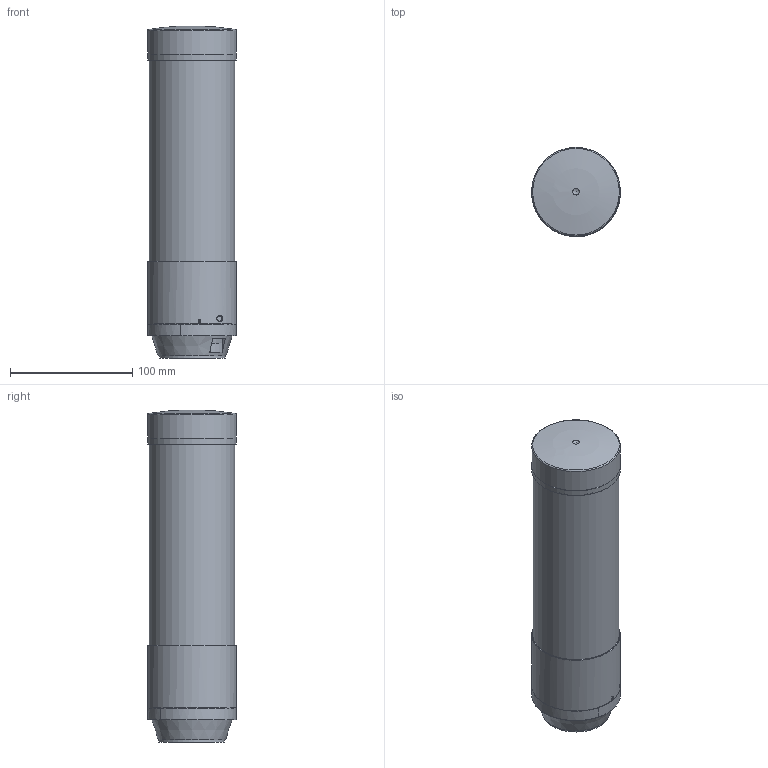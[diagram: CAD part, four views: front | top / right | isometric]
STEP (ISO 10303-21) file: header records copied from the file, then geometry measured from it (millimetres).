
FILE_DESCRIPTION(/* description */ ('Customer-3D'),/* implementation_level */ '2;1');
FILE_NAME(/* name */ 'C:\CEWorkDir\0050569C0EFC1EDC9EA6630D4E40A0C4\in\100000010228_prt_000.step',/* time_stamp */ '2022-01-19T15:22:57+01:00',/* author */ ('JENNERT'),/* organization */ ('WERMA Signaltechnik GmbH+Co.KG'),/* preprocessor_version */ 'ST-DEVELOPER v17',/* originating_system */ 'Autodesk Inventor 2018',/* authorisation */ 'public');
FILE_SCHEMA (('AUTOMOTIVE_DESIGN { 1 0 10303 214 3 1 1 }'));
Length unit declared in the file: millimetre
Products named in the file (1): 100000010228_prt_000_1
Bounding box: 72.5 x 72.5 x 271.18 mm (x, y, z)
Volume: 1026344.7 mm3; surface area: 76961.2 mm2
Topology: 1 solids, 10 shells, 324 faces, 820 edges, 548 vertices
Faces by surface type: plane 138, cylinder 73, cone 61, bspline 39, torus 7, sphere 6
Full cylindrical faces by diameter (mm): 1 x4, 6 x2, 10.5 x1, 17.5 x1, 54 x1, 70 x1, 70.889 x1, 72.5 x2
Entity records: 12109 total; most frequent: CARTESIAN_POINT 4102, ORIENTED_EDGE 1634, DIRECTION 1523, EDGE_CURVE 817, AXIS2_PLACEMENT_3D 615, VERTEX_POINT 550, EDGE_LOOP 367, STYLED_ITEM 325
